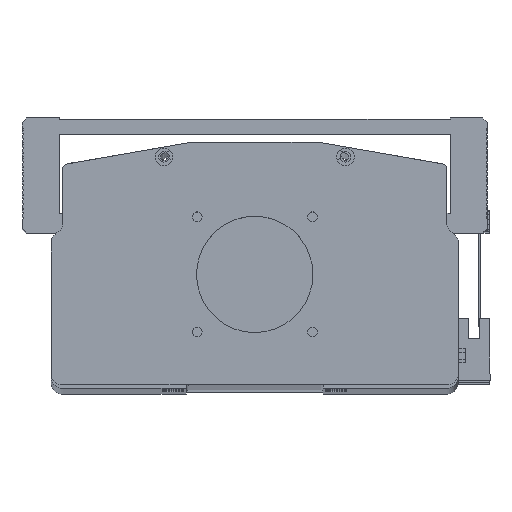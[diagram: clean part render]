
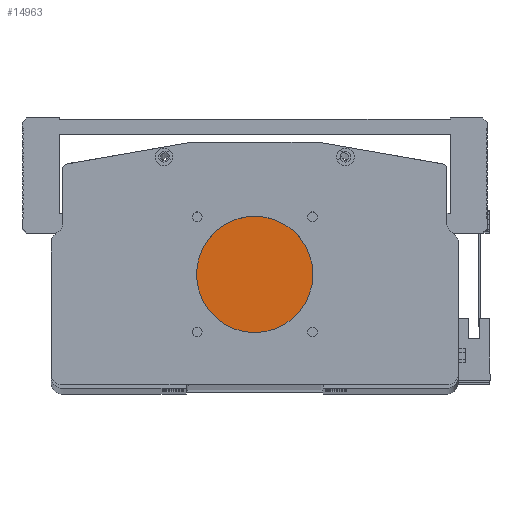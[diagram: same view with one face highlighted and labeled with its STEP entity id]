
A CAD part, top view. The second image highlights one B-rep face of the part: STEP entity #14963.
In plain terms, the highlighted planar face has unit normal (0, 0, 1).
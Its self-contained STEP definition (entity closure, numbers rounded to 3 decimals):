
#2447 = FACE_OUTER_BOUND ( 'NONE', #30291, .T. ) ;
#2914 = AXIS2_PLACEMENT_3D ( 'NONE', #30802, #14396, #33530 ) ;
#2983 = ORIENTED_EDGE ( 'NONE', *, *, #32775, .T. ) ;
#4520 = AXIS2_PLACEMENT_3D ( 'NONE', #31939, #15521, #34677 ) ;
#6965 = CARTESIAN_POINT ( 'NONE',  ( 0., 0., 0. ) ) ;
#12487 = DIRECTION ( 'NONE',  ( 1., 0., 0. ) ) ;
#14396 = DIRECTION ( 'NONE',  ( 0., 0., 1. ) ) ;
#14963 = ADVANCED_FACE ( 'NONE', ( #2447 ), #28890, .T. ) ;
#15289 = CIRCLE ( 'NONE', #4520, 25. ) ;
#15521 = DIRECTION ( 'NONE',  ( 0., 0., 1. ) ) ;
#18409 = CARTESIAN_POINT ( 'NONE',  ( 112.5, 47.5, 0. ) ) ;
#22921 = VERTEX_POINT ( 'NONE', #30585 ) ;
#23488 = AXIS2_PLACEMENT_3D ( 'NONE', #6965, #28760, #12487 ) ;
#28492 = VERTEX_POINT ( 'NONE', #18409 ) ;
#28760 = DIRECTION ( 'NONE',  ( 0., 0., 1. ) ) ;
#28890 = PLANE ( 'NONE',  #23488 ) ;
#30291 = EDGE_LOOP ( 'NONE', ( #33497, #2983 ) ) ;
#30585 = CARTESIAN_POINT ( 'NONE',  ( 62.5, 47.5, 0. ) ) ;
#30802 = CARTESIAN_POINT ( 'NONE',  ( 87.5, 47.5, 0. ) ) ;
#31939 = CARTESIAN_POINT ( 'NONE',  ( 87.5, 47.5, 0. ) ) ;
#32775 = EDGE_CURVE ( 'NONE', #28492, #22921, #32909, .T. ) ;
#32909 = CIRCLE ( 'NONE', #2914, 25. ) ;
#33497 = ORIENTED_EDGE ( 'NONE', *, *, #33643, .T. ) ;
#33530 = DIRECTION ( 'NONE',  ( 1., 0., 0. ) ) ;
#33643 = EDGE_CURVE ( 'NONE', #22921, #28492, #15289, .T. ) ;
#34677 = DIRECTION ( 'NONE',  ( 1., 0., 0. ) ) ;
